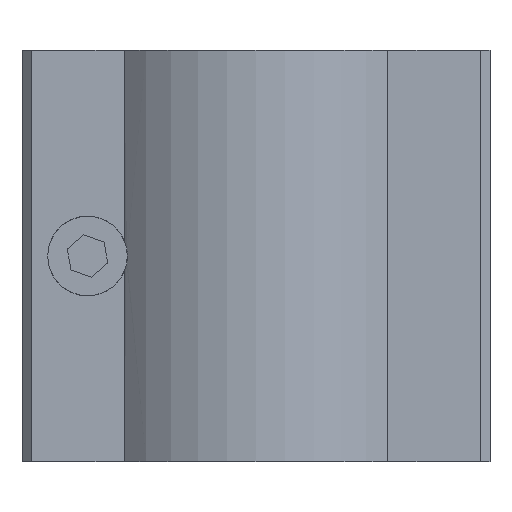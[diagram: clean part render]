
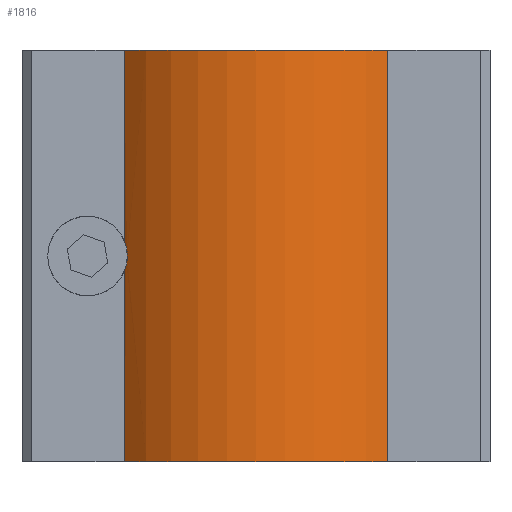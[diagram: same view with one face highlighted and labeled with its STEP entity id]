
A CAD part, front view. The second image highlights one B-rep face of the part: STEP entity #1816.
In plain terms, the highlighted cylindrical face has radius 19.5 mm (diameter 39 mm), a partial arc.
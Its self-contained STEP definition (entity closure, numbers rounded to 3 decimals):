
#679=CARTESIAN_POINT('',(-14.78,-9.302,16.879));
#680=VERTEX_POINT('',#679);
#688=CARTESIAN_POINT('',(-14.459,-9.629,18.5));
#689=VERTEX_POINT('',#688);
#690=CARTESIAN_POINT('',(-14.459,-9.629,18.5));
#691=CARTESIAN_POINT('',(-14.459,-9.629,18.198));
#692=CARTESIAN_POINT('',(-14.494,-9.594,17.871));
#693=CARTESIAN_POINT('',(-14.619,-9.468,17.32));
#694=CARTESIAN_POINT('',(-14.694,-9.391,17.088));
#695=CARTESIAN_POINT('',(-14.78,-9.302,16.879));
#696=B_SPLINE_CURVE_WITH_KNOTS('',3,(#690,#691,#692,#693,#694,#695),.UNSPECIFIED.,.F.,.U.,(4,2,4),(1.333,1.424,1.495),.UNSPECIFIED.);
#697=EDGE_CURVE('',#689,#680,#696,.T.);
#931=CARTESIAN_POINT('',(-14.78,-9.302,20.121));
#932=VERTEX_POINT('',#931);
#933=CARTESIAN_POINT('',(-14.78,-9.302,20.121));
#934=CARTESIAN_POINT('',(-14.694,-9.391,19.912));
#935=CARTESIAN_POINT('',(-14.619,-9.468,19.68));
#936=CARTESIAN_POINT('',(-14.494,-9.594,19.129));
#937=CARTESIAN_POINT('',(-14.459,-9.629,18.802));
#938=CARTESIAN_POINT('',(-14.459,-9.629,18.5));
#939=B_SPLINE_CURVE_WITH_KNOTS('',3,(#933,#934,#935,#936,#937,#938),.UNSPECIFIED.,.F.,.U.,(4,2,4),(1.172,1.243,1.333),.UNSPECIFIED.);
#940=EDGE_CURVE('',#932,#689,#939,.T.);
#977=CARTESIAN_POINT('',(-14.78,-9.302,40.5));
#978=VERTEX_POINT('',#977);
#979=CARTESIAN_POINT('',(-14.78,-9.302,40.5));
#980=DIRECTION('',(0.0,0.0,-1.0));
#981=VECTOR('',#980,20.379);
#982=LINE('',#979,#981);
#983=EDGE_CURVE('',#978,#932,#982,.T.);
#1001=CARTESIAN_POINT('',(-14.78,-9.302,-3.5));
#1002=VERTEX_POINT('',#1001);
#1009=CARTESIAN_POINT('',(-14.78,-9.302,16.879));
#1010=DIRECTION('',(0.0,0.0,-1.0));
#1011=VECTOR('',#1010,20.379);
#1012=LINE('',#1009,#1011);
#1013=EDGE_CURVE('',#680,#1002,#1012,.T.);
#1167=CARTESIAN_POINT('',(13.362,-9.302,40.5));
#1168=VERTEX_POINT('',#1167);
#1169=CARTESIAN_POINT('',(-0.709,4.198,40.5));
#1170=DIRECTION('',(0.0,0.0,-1.));
#1171=DIRECTION('',(0.722,0.692,0.0));
#1172=AXIS2_PLACEMENT_3D('',#1169,#1170,#1171);
#1173=CIRCLE('',#1172,19.5);
#1174=EDGE_CURVE('',#1168,#978,#1173,.T.);
#1720=CARTESIAN_POINT('',(13.362,-9.302,-3.5));
#1721=VERTEX_POINT('',#1720);
#1728=CARTESIAN_POINT('',(-0.709,4.198,-3.5));
#1729=DIRECTION('',(0.0,0.0,1.));
#1730=DIRECTION('',(0.722,0.692,0.0));
#1731=AXIS2_PLACEMENT_3D('',#1728,#1729,#1730);
#1732=CIRCLE('',#1731,19.5);
#1733=EDGE_CURVE('',#1002,#1721,#1732,.T.);
#1791=CARTESIAN_POINT('',(13.362,-9.302,40.5));
#1792=DIRECTION('',(0.0,0.0,-1.0));
#1793=VECTOR('',#1792,44.);
#1794=LINE('',#1791,#1793);
#1795=EDGE_CURVE('',#1168,#1721,#1794,.T.);
#1802=CARTESIAN_POINT('',(-0.709,4.198,18.5));
#1803=DIRECTION('',(0.0,0.0,1.0));
#1804=DIRECTION('',(0.722,0.692,0.0));
#1805=AXIS2_PLACEMENT_3D('',#1802,#1803,#1804);
#1806=CYLINDRICAL_SURFACE('',#1805,19.5);
#1807=ORIENTED_EDGE('',*,*,#940,.T.);
#1808=ORIENTED_EDGE('',*,*,#697,.T.);
#1809=ORIENTED_EDGE('',*,*,#1013,.T.);
#1810=ORIENTED_EDGE('',*,*,#1733,.T.);
#1811=ORIENTED_EDGE('',*,*,#1795,.F.);
#1812=ORIENTED_EDGE('',*,*,#1174,.T.);
#1813=ORIENTED_EDGE('',*,*,#983,.T.);
#1814=EDGE_LOOP('',(#1807,#1808,#1809,#1810,#1811,#1812,#1813));
#1815=FACE_OUTER_BOUND('',#1814,.T.);
#1816=ADVANCED_FACE('',(#1815),#1806,.T.);
